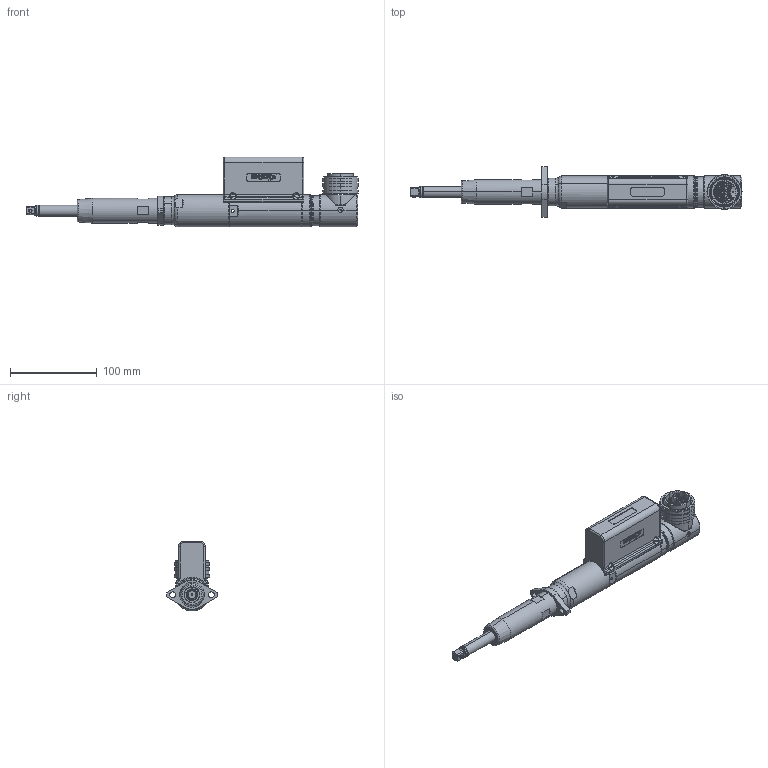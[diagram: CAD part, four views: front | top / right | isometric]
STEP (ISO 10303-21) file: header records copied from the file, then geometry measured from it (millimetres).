
FILE_DESCRIPTION (( 'STEP AP214' ), '1' );
FILE_NAME ('AEF4C12011BB, AEF4C12014BB, AEF4C12018BB & AEF4C12022BB.STEP', '2012-06-08T21:26:20', ( 'delete me' ), ( '' ), 'SwSTEP 2.0', 'SolidWorks 2012', '' );
FILE_SCHEMA (( 'AUTOMOTIVE_DESIGN' ));
Length unit declared in the file: inch
Products named in the file (1): AEF4C12011BB, AEF4C12014BB, AEF4C12018BB & AEF4C12022BB
Bounding box: 382.59 x 58.71 x 80.57 mm (x, y, z)
Surface area: 70173.7 mm2 (no closed solid volume)
Topology: 0 solids, 86 shells, 653 faces, 3132 edges, 2536 vertices
Faces by surface type: plane 302, cylinder 192, torus 78, cone 73, sphere 4, bspline 4
Entity records: 41940 total; most frequent: CARTESIAN_POINT 9142, DIRECTION 4941, ORIENTED_EDGE 4190, EDGE_CURVE 3124, VERTEX_POINT 2532, VECTOR 2241, LINE 2241, AXIS2_PLACEMENT_3D 1350
